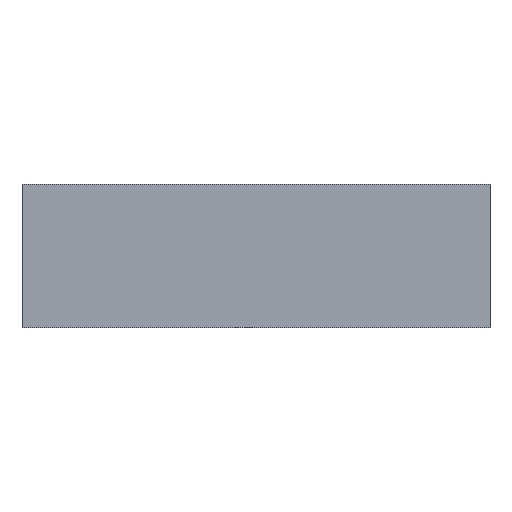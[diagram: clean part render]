
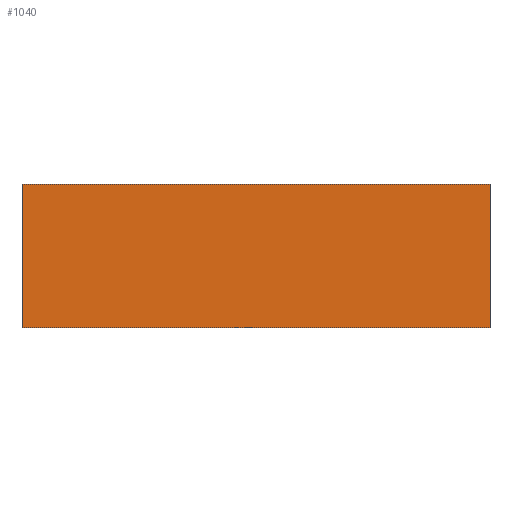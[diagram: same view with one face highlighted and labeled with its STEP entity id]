
A CAD part, front view. The second image highlights one B-rep face of the part: STEP entity #1040.
In plain terms, the highlighted planar face has unit normal (0, -1, 0).
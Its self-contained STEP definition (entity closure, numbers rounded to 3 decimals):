
#178=ORIENTED_EDGE('',*,*,#469,.T.);
#179=ORIENTED_EDGE('',*,*,#470,.T.);
#180=ORIENTED_EDGE('',*,*,#471,.F.);
#181=ORIENTED_EDGE('',*,*,#472,.F.);
#469=EDGE_CURVE('',#601,#605,#709,.T.);
#470=EDGE_CURVE('',#605,#606,#710,.T.);
#471=EDGE_CURVE('',#607,#606,#711,.T.);
#472=EDGE_CURVE('',#601,#607,#712,.T.);
#601=VERTEX_POINT('',#1628);
#605=VERTEX_POINT('',#1638);
#606=VERTEX_POINT('',#1642);
#607=VERTEX_POINT('',#1644);
#709=LINE('',#1639,#819);
#710=LINE('',#1641,#820);
#711=LINE('',#1643,#821);
#712=LINE('',#1645,#822);
#819=VECTOR('',#1319,1000.);
#820=VECTOR('',#1322,1000.);
#821=VECTOR('',#1323,1000.);
#822=VECTOR('',#1324,1000.);
#899=EDGE_LOOP('',(#178,#179,#180,#181));
#953=FACE_BOUND('',#899,.T.);
#998=PLANE('',#1126);
#1040=ADVANCED_FACE('',(#953),#998,.F.);
#1126=AXIS2_PLACEMENT_3D('',#1640,#1320,#1321);
#1319=DIRECTION('',(0.,0.,-1.));
#1320=DIRECTION('',(0.,1.,0.));
#1321=DIRECTION('',(0.,0.,1.));
#1322=DIRECTION('',(1.,0.,0.));
#1323=DIRECTION('',(0.,0.,-1.));
#1324=DIRECTION('',(1.,0.,0.));
#1628=CARTESIAN_POINT('',(-114.,0.,35.));
#1638=CARTESIAN_POINT('',(-114.,0.,-35.));
#1639=CARTESIAN_POINT('',(-114.,0.,35.));
#1640=CARTESIAN_POINT('',(-114.,0.,35.));
#1641=CARTESIAN_POINT('',(-114.,0.,-35.));
#1642=CARTESIAN_POINT('',(114.,0.,-35.));
#1643=CARTESIAN_POINT('',(114.,0.,35.));
#1644=CARTESIAN_POINT('',(114.,0.,35.));
#1645=CARTESIAN_POINT('',(-114.,0.,35.));
